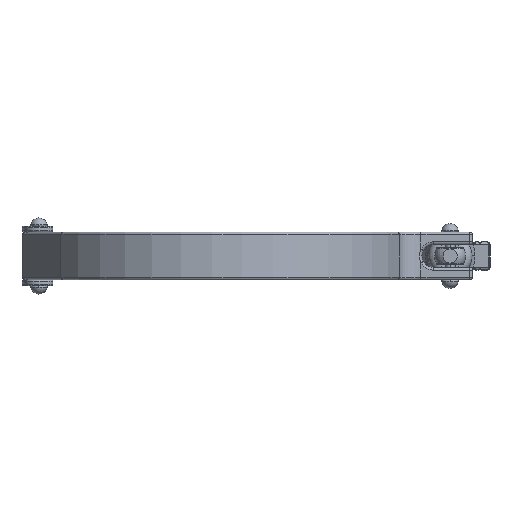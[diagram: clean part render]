
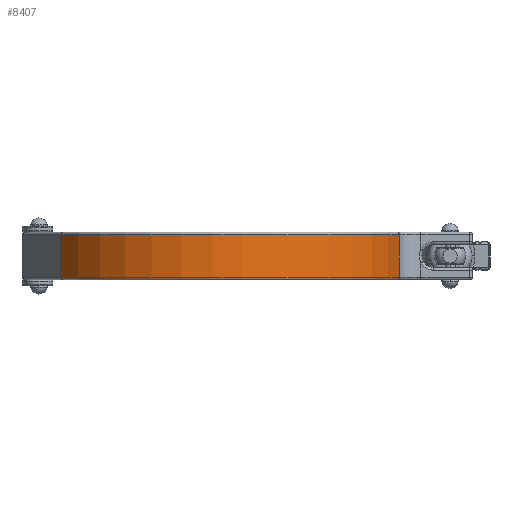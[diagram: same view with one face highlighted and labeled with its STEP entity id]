
A CAD part, front view. The second image highlights one B-rep face of the part: STEP entity #8407.
In plain terms, the highlighted cylindrical face has radius 66 mm (diameter 132 mm), a partial arc.
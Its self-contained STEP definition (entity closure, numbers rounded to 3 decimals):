
#619 = EDGE_LOOP ( 'NONE', ( #8506, #13783, #5102, #4031 ) ) ;
#935 = CARTESIAN_POINT ( 'NONE',  ( 0., 70., 7.5 ) ) ;
#1343 = EDGE_CURVE ( 'NONE', #15369, #1541, #12203, .T. ) ;
#1406 = CARTESIAN_POINT ( 'NONE',  ( 0., 70., 8.5 ) ) ;
#1541 = VERTEX_POINT ( 'NONE', #3856 ) ;
#1789 = CARTESIAN_POINT ( 'NONE',  ( -57.158, 37., 8.5 ) ) ;
#1935 = CARTESIAN_POINT ( 'NONE',  ( 63.016, 50.378, -7.5 ) ) ;
#2294 = DIRECTION ( 'NONE',  ( 1., 0., 0. ) ) ;
#3854 = AXIS2_PLACEMENT_3D ( 'NONE', #16246, #5977, #9828 ) ;
#3856 = CARTESIAN_POINT ( 'NONE',  ( -57.158, 37., 7.5 ) ) ;
#4031 = ORIENTED_EDGE ( 'NONE', *, *, #13209, .T. ) ;
#4119 = CARTESIAN_POINT ( 'NONE',  ( 63.016, 50.378, 7.5 ) ) ;
#4460 = VERTEX_POINT ( 'NONE', #9635 ) ;
#4721 = VECTOR ( 'NONE', #7240, 1000. ) ;
#5102 = ORIENTED_EDGE ( 'NONE', *, *, #13802, .T. ) ;
#5656 = DIRECTION ( 'NONE',  ( 1., 0., 0. ) ) ;
#5977 = DIRECTION ( 'NONE',  ( 0., 0., 1. ) ) ;
#6047 = DIRECTION ( 'NONE',  ( 0., 0., -1. ) ) ;
#7240 = DIRECTION ( 'NONE',  ( 0., 0., -1. ) ) ;
#7402 = CARTESIAN_POINT ( 'NONE',  ( 63.016, 50.378, 8.5 ) ) ;
#7527 = CYLINDRICAL_SURFACE ( 'NONE', #7755, 66. ) ;
#7755 = AXIS2_PLACEMENT_3D ( 'NONE', #1406, #13248, #5656 ) ;
#8136 = LINE ( 'NONE', #7402, #4721 ) ;
#8407 = ADVANCED_FACE ( 'NONE', ( #15604 ), #7527, .T. ) ;
#8506 = ORIENTED_EDGE ( 'NONE', *, *, #10558, .F. ) ;
#8786 = AXIS2_PLACEMENT_3D ( 'NONE', #935, #6047, #2294 ) ;
#9635 = CARTESIAN_POINT ( 'NONE',  ( -57.158, 37., -7.5 ) ) ;
#9828 = DIRECTION ( 'NONE',  ( 1., 0., 0. ) ) ;
#10558 = EDGE_CURVE ( 'NONE', #15369, #15486, #8136, .T. ) ;
#10686 = LINE ( 'NONE', #1789, #14694 ) ;
#12203 = CIRCLE ( 'NONE', #8786, 66. ) ;
#13209 = EDGE_CURVE ( 'NONE', #4460, #15486, #15112, .T. ) ;
#13248 = DIRECTION ( 'NONE',  ( 0., 0., -1. ) ) ;
#13783 = ORIENTED_EDGE ( 'NONE', *, *, #1343, .T. ) ;
#13802 = EDGE_CURVE ( 'NONE', #1541, #4460, #10686, .T. ) ;
#14694 = VECTOR ( 'NONE', #16075, 1000. ) ;
#15112 = CIRCLE ( 'NONE', #3854, 66. ) ;
#15369 = VERTEX_POINT ( 'NONE', #4119 ) ;
#15486 = VERTEX_POINT ( 'NONE', #1935 ) ;
#15604 = FACE_OUTER_BOUND ( 'NONE', #619, .T. ) ;
#16075 = DIRECTION ( 'NONE',  ( 0., 0., -1. ) ) ;
#16246 = CARTESIAN_POINT ( 'NONE',  ( 0., 70., -7.5 ) ) ;
